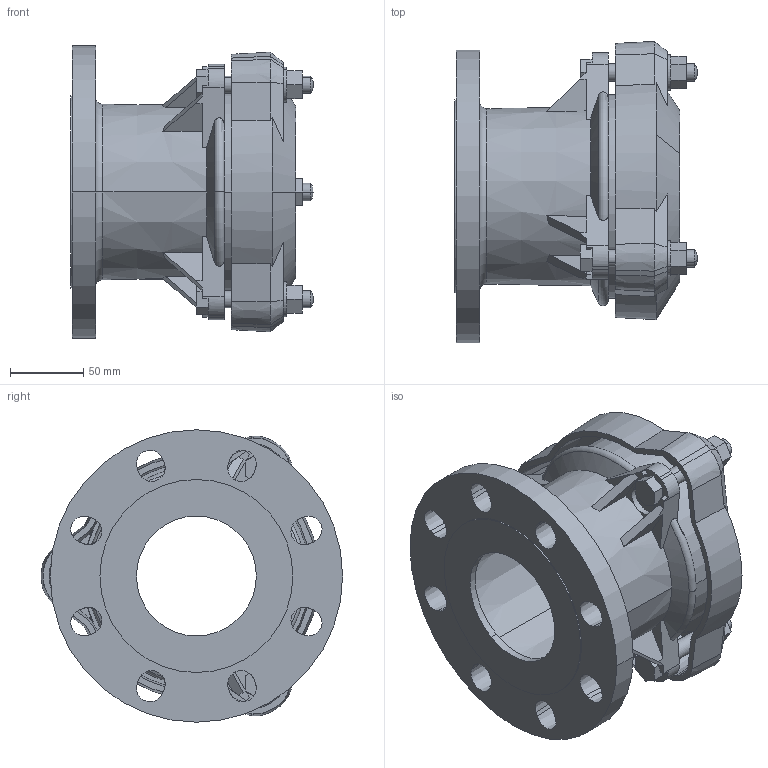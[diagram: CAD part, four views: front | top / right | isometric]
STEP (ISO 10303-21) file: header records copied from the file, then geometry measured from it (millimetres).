
FILE_DESCRIPTION((''),'2;1');
FILE_NAME('BIM_13199_5_ASM','2020-09-09T',('MReader'),(''),'CREO PARAMETRIC BY PTC INC, 2016130','CREO PARAMETRIC BY PTC INC, 2016130','');
FILE_SCHEMA(('CONFIG_CONTROL_DESIGN'));
Length unit declared in the file: millimetre
Products named in the file (3): BIM_13192; BIM_13230_5; BIM_13199_5_ASM
Assembly tree (2 placements, depth 2):
  BIM_13199_5_ASM
    BIM_13192
    BIM_13230_5
Bounding box: 166 x 206.03 x 200 mm (x, y, z)
Volume: 1138285.7 mm3; surface area: 261437.1 mm2
Topology: 2 solids, 2 shells, 316 faces, 850 edges, 545 vertices
Faces by surface type: plane 183, cone 50, cylinder 49, bspline 22, sphere 6, torus 6
Entity records: 10832 total; most frequent: CARTESIAN_POINT 2891, ORIENTED_EDGE 1688, DIRECTION 1578, EDGE_CURVE 844, VERTEX_POINT 545, AXIS2_PLACEMENT_3D 540, VECTOR 498, LINE 498
